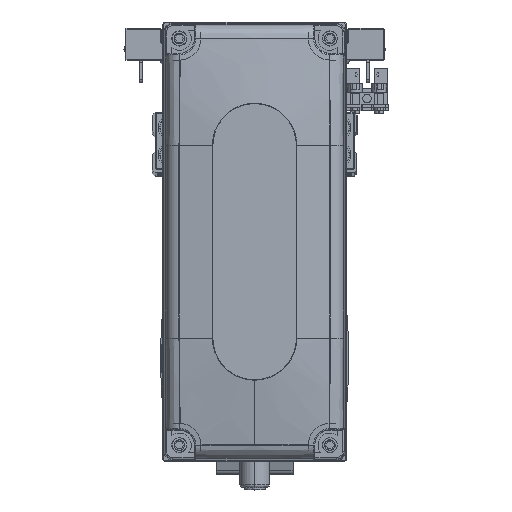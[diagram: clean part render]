
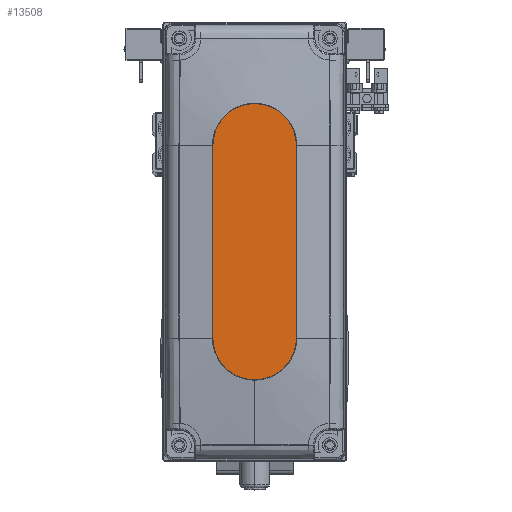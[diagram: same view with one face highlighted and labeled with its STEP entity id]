
A CAD part, top view. The second image highlights one B-rep face of the part: STEP entity #13508.
In plain terms, the highlighted planar face has unit normal (0, 0, 1).
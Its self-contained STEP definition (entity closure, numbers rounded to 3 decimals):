
#107 = CIRCLE ( 'NONE', #26364, 14. ) ;
#412 = CIRCLE ( 'NONE', #26649, 14. ) ;
#4483 = CARTESIAN_POINT ( 'NONE',  ( 0., 0., 35. ) ) ;
#5729 = DIRECTION ( 'NONE',  ( 1., 0., 0. ) ) ;
#5963 = DIRECTION ( 'NONE',  ( 1., 0., 0. ) ) ;
#7473 = CARTESIAN_POINT ( 'NONE',  ( -32., -14., 35. ) ) ;
#8251 = CARTESIAN_POINT ( 'NONE',  ( 32., 0., 35. ) ) ;
#8786 = VERTEX_POINT ( 'NONE', #37518 ) ;
#9027 = CARTESIAN_POINT ( 'NONE',  ( 32., 14., 35. ) ) ;
#10266 = VECTOR ( 'NONE', #21783, 1000. ) ;
#10919 = CARTESIAN_POINT ( 'NONE',  ( -32., 14., 35. ) ) ;
#13508 = ADVANCED_FACE ( 'NONE', ( #22337 ), #36625, .T. ) ;
#18810 = DIRECTION ( 'NONE',  ( 0., 0., 1. ) ) ;
#21783 = DIRECTION ( 'NONE',  ( 1., 0., 0. ) ) ;
#21789 = CARTESIAN_POINT ( 'NONE',  ( 46., 0., 35. ) ) ;
#22186 = ORIENTED_EDGE ( 'NONE', *, *, #23002, .T. ) ;
#22337 = FACE_OUTER_BOUND ( 'NONE', #39599, .T. ) ;
#22559 = DIRECTION ( 'NONE',  ( 0., 0., 1. ) ) ;
#23002 = EDGE_CURVE ( 'NONE', #44490, #8786, #39615, .T. ) ;
#23439 = AXIS2_PLACEMENT_3D ( 'NONE', #8251, #22559, #36842 ) ;
#23539 = VERTEX_POINT ( 'NONE', #9027 ) ;
#23550 = CARTESIAN_POINT ( 'NONE',  ( 32., 0., 35. ) ) ;
#23805 = CARTESIAN_POINT ( 'NONE',  ( -32., 0., 35. ) ) ;
#23982 = CARTESIAN_POINT ( 'NONE',  ( -32., 14., 35. ) ) ;
#24976 = VECTOR ( 'NONE', #25211, 1000. ) ;
#25048 = EDGE_CURVE ( 'NONE', #23539, #32976, #43052, .T. ) ;
#25211 = DIRECTION ( 'NONE',  ( -1., 0., 0. ) ) ;
#26364 = AXIS2_PLACEMENT_3D ( 'NONE', #23805, #38099, #5963 ) ;
#26649 = AXIS2_PLACEMENT_3D ( 'NONE', #23550, #37857, #5729 ) ;
#27548 = AXIS2_PLACEMENT_3D ( 'NONE', #4483, #18810, #33077 ) ;
#27580 = EDGE_CURVE ( 'NONE', #43065, #23539, #412, .T. ) ;
#28584 = CARTESIAN_POINT ( 'NONE',  ( -32., -14., 35. ) ) ;
#30816 = EDGE_CURVE ( 'NONE', #32976, #44490, #107, .T. ) ;
#30835 = ORIENTED_EDGE ( 'NONE', *, *, #25048, .T. ) ;
#32169 = ORIENTED_EDGE ( 'NONE', *, *, #30816, .T. ) ;
#32353 = ORIENTED_EDGE ( 'NONE', *, *, #44231, .T. ) ;
#32976 = VERTEX_POINT ( 'NONE', #23982 ) ;
#33077 = DIRECTION ( 'NONE',  ( 1., 0., 0. ) ) ;
#36625 = PLANE ( 'NONE',  #27548 ) ;
#36842 = DIRECTION ( 'NONE',  ( 1., 0., 0. ) ) ;
#37518 = CARTESIAN_POINT ( 'NONE',  ( 32., -14., 35. ) ) ;
#37857 = DIRECTION ( 'NONE',  ( 0., 0., 1. ) ) ;
#38099 = DIRECTION ( 'NONE',  ( 0., 0., 1. ) ) ;
#39599 = EDGE_LOOP ( 'NONE', ( #30835, #32169, #22186, #32353, #40083 ) ) ;
#39615 = LINE ( 'NONE', #7473, #10266 ) ;
#40083 = ORIENTED_EDGE ( 'NONE', *, *, #27580, .T. ) ;
#43052 = LINE ( 'NONE', #10919, #24976 ) ;
#43065 = VERTEX_POINT ( 'NONE', #21789 ) ;
#43688 = CIRCLE ( 'NONE', #23439, 14. ) ;
#44231 = EDGE_CURVE ( 'NONE', #8786, #43065, #43688, .T. ) ;
#44490 = VERTEX_POINT ( 'NONE', #28584 ) ;
